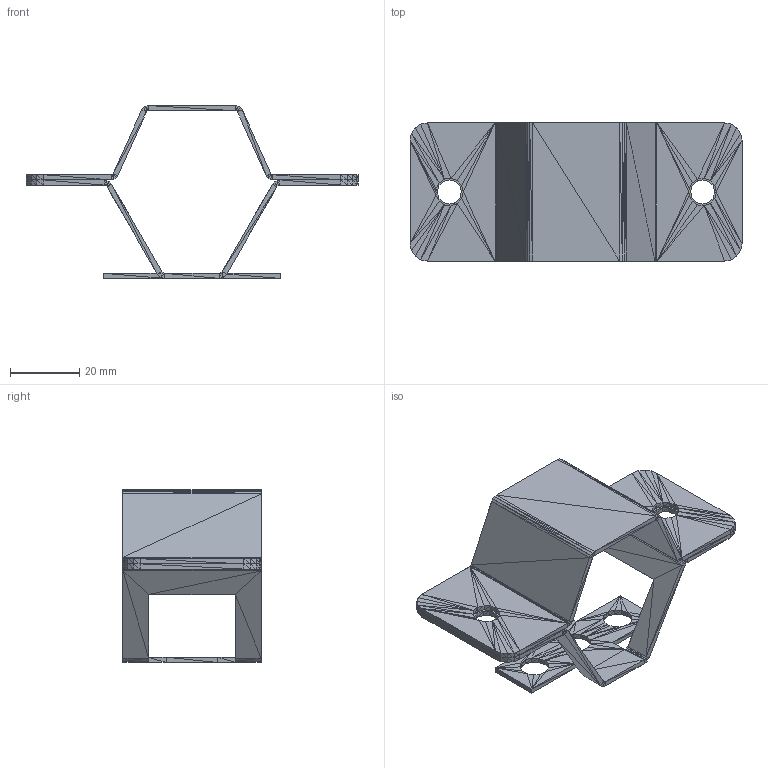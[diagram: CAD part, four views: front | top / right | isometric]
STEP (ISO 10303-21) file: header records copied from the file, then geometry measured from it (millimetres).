
FILE_DESCRIPTION((''),'2;1');
FILE_NAME('051102', '2026-04-14T09:47:40', (''), (''), 'ImageToStl.com STEP Converter','', '');
FILE_SCHEMA(('AUTOMOTIVE_DESIGN_CC2'));
Length unit declared in the file: metre
Products named in the file (1): product0
Bounding box: 96 x 40 x 50 mm (x, y, z)
Surface area: 19383.9 mm2 (no closed solid volume)
Topology: 0 solids, 902 shells, 902 faces, 2706 edges, 427 vertices
Faces by surface type: plane 902
Entity records: 20726 total; most frequent: DIRECTION 4512, ORIENTED_EDGE 2706, EDGE_CURVE 2706, LINE 2706, VECTOR 2706, AXIS2_PLACEMENT_3D 903, FACE_SURFACE 902, PLANE 902
